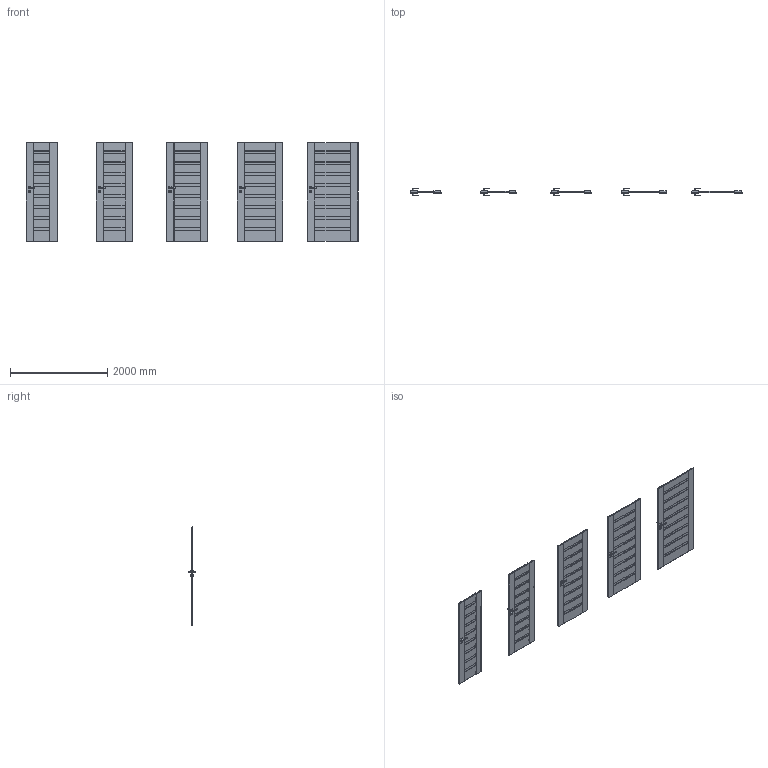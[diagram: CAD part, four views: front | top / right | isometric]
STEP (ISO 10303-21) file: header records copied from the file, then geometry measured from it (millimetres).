
FILE_DESCRIPTION(/* description */ (''),/* implementation_level */ '2;1');
FILE_NAME(/* name */ '049815_A_2-Skrzydło Verte Premium model D polska norma _PN__ przylgowe..stp',/* time_stamp */ '2024-08-26T12:10:02+02:00',/* author */ (''),/* organization */ (''),/* preprocessor_version */ 'ST-DEVELOPER v16',/* originating_system */ 'SIEMENS PLM Software NX 11.0',/* authorisation */ '');
FILE_SCHEMA (('AUTOMOTIVE_DESIGN { 1 0 10303 214 3 1 1 1 }'));
Products named in the file (1): bkni4FE006DBtg1f
Bounding box: 6844 x 153.13 x 2030.02 mm (x, y, z)
Volume: 272443535.3 mm3; surface area: 20187013.7 mm2
Topology: 25 solids, 25 shells, 2950 faces, 8772 edges, 5577 vertices
Faces by surface type: plane 1895, cylinder 745, bspline 170, sphere 140
Entity records: 104114 total; most frequent: CARTESIAN_POINT 24692, ORIENTED_EDGE 17264, DIRECTION 15902, EDGE_CURVE 8632, LINE 6200, VECTOR 6200, VERTEX_POINT 5577, AXIS2_PLACEMENT_3D 4851
